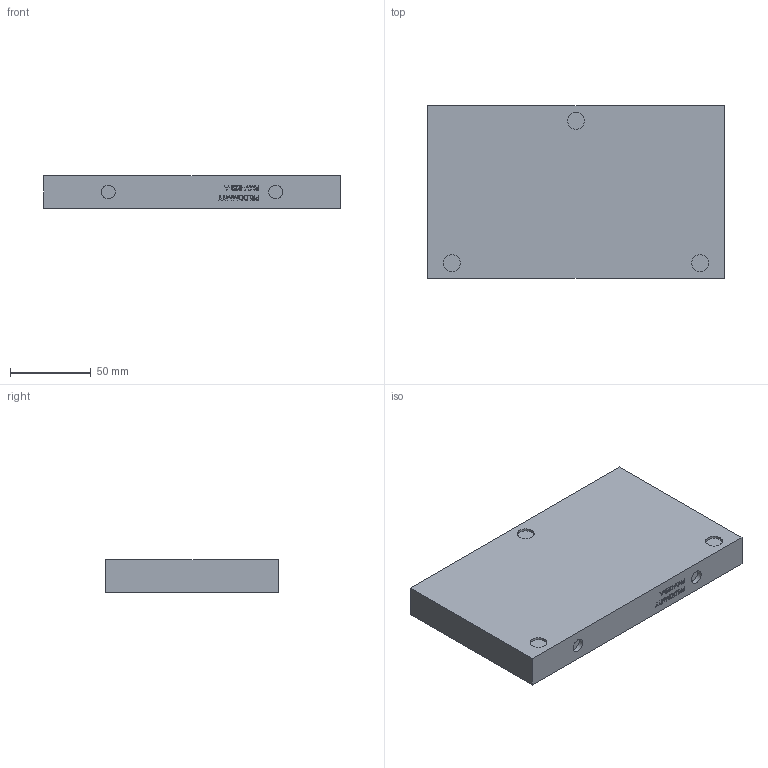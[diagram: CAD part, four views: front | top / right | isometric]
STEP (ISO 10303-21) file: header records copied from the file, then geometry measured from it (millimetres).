
FILE_DESCRIPTION (( 'STEP AP214' ), '1' );
FILE_NAME ('0304554.STEP', '2022-08-02T14:04:02', ( '' ), ( '' ), 'SwSTEP 2.0', 'SolidWorks 2020', '' );
FILE_SCHEMA (( 'AUTOMOTIVE_DESIGN' ));
Length unit declared in the file: millimetre
Products named in the file (3): 0304554; 0283782_008; 0293873_002
Assembly tree (2 placements, depth 2):
  0304554
    0293873_002
    0283782_008
Bounding box: 183.6 x 107 x 20 mm (x, y, z)
Volume: 391435.1 mm3; surface area: 51851.2 mm2
Topology: 3 solids, 3 shells, 284 faces, 705 edges, 467 vertices
Faces by surface type: plane 202, bspline 43, cone 21, cylinder 18
Full cylindrical faces by diameter (mm): 0.6 x1, 1.1 x1, 3.5 x1, 3.767 x1, 4 x3, 8 x2, 8.5 x3, 10.5 x6
Entity records: 10647 total; most frequent: CARTESIAN_POINT 4199, ORIENTED_EDGE 1310, DIRECTION 1115, EDGE_CURVE 655, LINE 511, VECTOR 511, VERTEX_POINT 456, EDGE_LOOP 365
